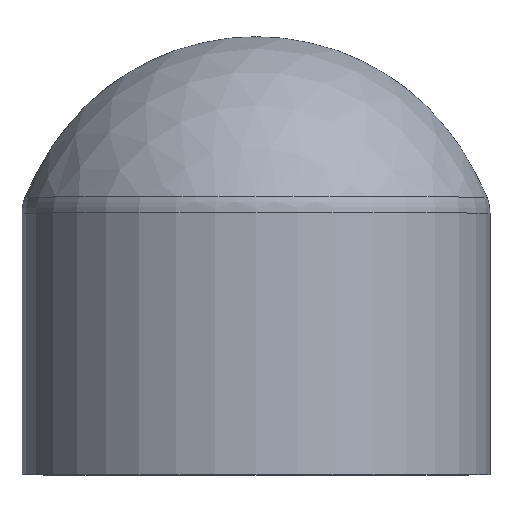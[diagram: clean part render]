
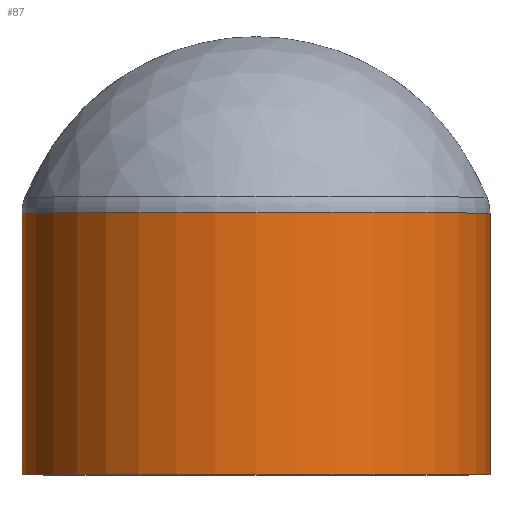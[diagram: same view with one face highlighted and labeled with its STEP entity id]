
A CAD part, top view. The second image highlights one B-rep face of the part: STEP entity #87.
In plain terms, the highlighted cylindrical face has radius 16.5 mm (diameter 33 mm), a full revolution.
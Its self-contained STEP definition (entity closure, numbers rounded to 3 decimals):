
#20=CYLINDRICAL_SURFACE('',#98,16.5);
#23=FACE_BOUND('',#37,.T.);
#28=FACE_OUTER_BOUND('',#36,.T.);
#36=EDGE_LOOP('',(#71));
#37=EDGE_LOOP('',(#72));
#46=CIRCLE('',#96,16.5);
#48=CIRCLE('',#99,16.5);
#53=VERTEX_POINT('',#138);
#55=VERTEX_POINT('',#143);
#61=EDGE_CURVE('',#53,#53,#46,.T.);
#63=EDGE_CURVE('',#55,#55,#48,.T.);
#71=ORIENTED_EDGE('',*,*,#63,.T.);
#72=ORIENTED_EDGE('',*,*,#61,.F.);
#87=ADVANCED_FACE('',(#28,#23),#20,.T.);
#96=AXIS2_PLACEMENT_3D('',#139,#112,#113);
#98=AXIS2_PLACEMENT_3D('',#142,#116,#117);
#99=AXIS2_PLACEMENT_3D('',#144,#118,#119);
#112=DIRECTION('center_axis',(0.,1.,0.));
#113=DIRECTION('ref_axis',(1.,0.,0.));
#116=DIRECTION('center_axis',(0.,1.,0.));
#117=DIRECTION('ref_axis',(-1.,0.,0.));
#118=DIRECTION('center_axis',(0.,1.,0.));
#119=DIRECTION('ref_axis',(1.,0.,0.));
#138=CARTESIAN_POINT('',(-16.5,18.451,0.));
#139=CARTESIAN_POINT('Origin',(0.,18.451,0.));
#142=CARTESIAN_POINT('Origin',(0.,9.5,0.));
#143=CARTESIAN_POINT('',(-16.5,0.,0.));
#144=CARTESIAN_POINT('Origin',(0.,0.,0.));
